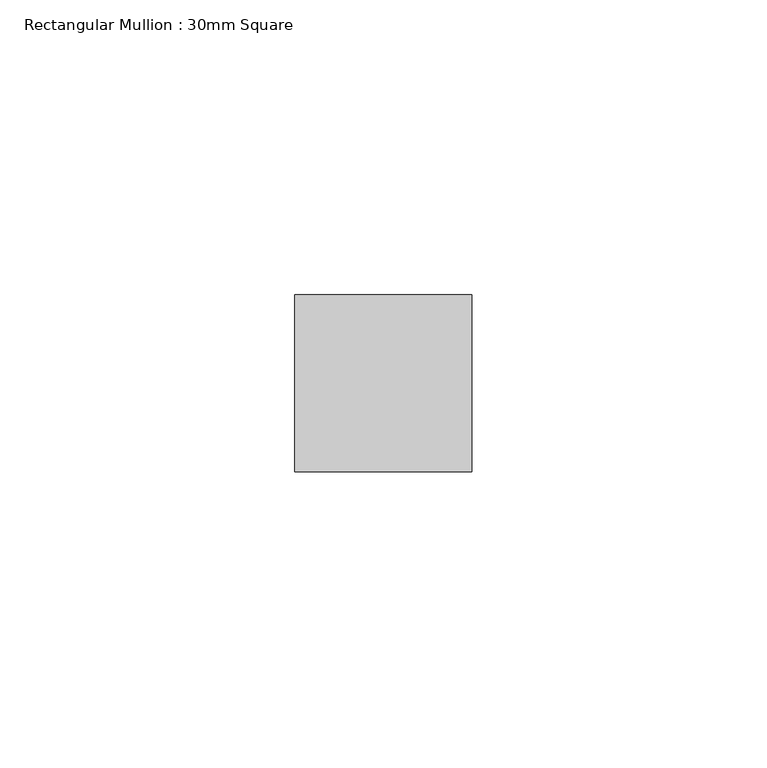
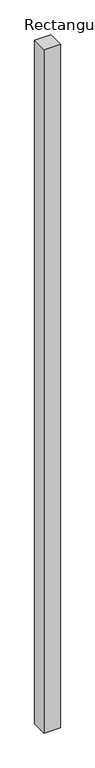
"""IFC4 building model written with IfcOpenShell, lengths in millimetres: member geometry, Rectangular Mullion : 30mm Square."""

from ifc_helpers import new_model, si_unit, frame, origin, place, context, project, spatial, polyline, outline, extrude, source, transform, mapped, element, save


def rectangular_mullion_30mm_square_e31bbad3(model_context):
    return source(origin(), model_context, "Body", "SweptSolid", [
        extrude(outline(polyline([(0.0, 15.0), (0.0, -15.0), (-30.0, -15.0), (-30.0, 15.0), (0.0, 15.0)])), frame((0.0, 0.0, -1334.9720435), z_axis=(0.0, 0.0, 1.0), x_axis=(1.0, 0.0, 0.0)), (0.0, 0.0, 1.0), 1334.9720435),
    ])


if __name__ == "__main__":
    model = new_model("IFC4")
    model_context = context("Model", 3, world=origin())
    ifc_project = project(units=[si_unit("LENGTHUNIT", "METRE", prefix="MILLI")], contexts=[model_context])
    site = spatial("IfcSite", under=ifc_project)
    building = spatial("IfcBuilding", under=site)
    placement = place(None, origin())
    rectangular_mullion_30mm_square_shape = rectangular_mullion_30mm_square_e31bbad3(model_context)
    element("IfcMember", 1, ObjectType="Rectangular Mullion : 30mm Square", at=placement, inside=building, context=model_context, shape_type="MappedRepresentation", body=[
        mapped(rectangular_mullion_30mm_square_shape, transform((0.0, 0.0, 0.0), x_axis=(1.0, 0.0, 0.0), y_axis=(0.0, 1.0, 0.0), z_axis=(0.0, 0.0, 1.0))),
    ])
    save(model, "model.ifc")
